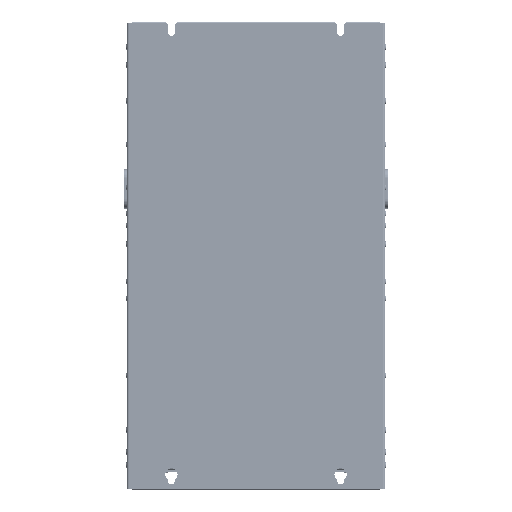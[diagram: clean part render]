
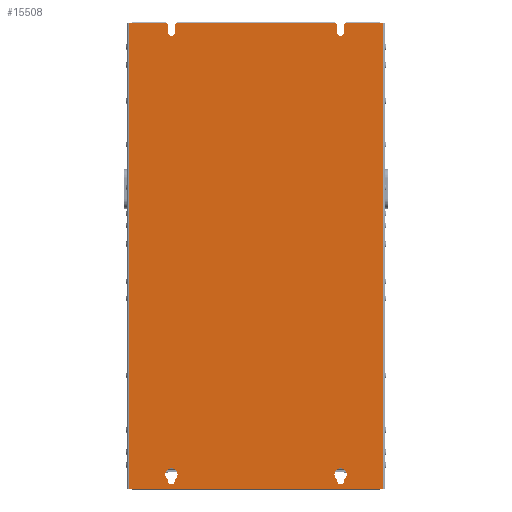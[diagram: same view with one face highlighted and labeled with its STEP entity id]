
A CAD part, left-side view. The second image highlights one B-rep face of the part: STEP entity #15508.
In plain terms, the highlighted planar face has unit normal (-1, 0, 0).
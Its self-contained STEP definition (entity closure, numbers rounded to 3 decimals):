
#22=DIRECTION('',(0.,0.,1.));
#23=VECTOR('',#22,1.523);
#24=CARTESIAN_POINT('',(-90.,-86.5,-405.));
#25=LINE('',#24,#23);
#30=CARTESIAN_POINT('',(-90.,-90.,-405.));
#31=DIRECTION('',(-1.,0.,0.));
#32=DIRECTION('',(0.,1.,0.));
#33=AXIS2_PLACEMENT_3D('',#30,#31,#32);
#38=DIRECTION('',(0.,0.,-1.));
#39=VECTOR('',#38,1.523);
#40=CARTESIAN_POINT('',(-90.,-93.5,-403.477));
#41=LINE('',#40,#39);
#45=CARTESIAN_POINT('',(-90.,-90.,-398.));
#46=DIRECTION('',(-1.,0.,0.));
#47=DIRECTION('',(0.,-0.538,-0.843));
#48=AXIS2_PLACEMENT_3D('',#45,#46,#47);
#53=CARTESIAN_POINT('',(-90.,90.,-405.));
#54=DIRECTION('',(-1.,0.,0.));
#55=DIRECTION('',(0.,1.,0.));
#56=AXIS2_PLACEMENT_3D('',#53,#54,#55);
#61=DIRECTION('',(0.,0.,-1.));
#62=VECTOR('',#61,1.523);
#63=CARTESIAN_POINT('',(-90.,86.5,-403.477));
#64=LINE('',#63,#62);
#68=CARTESIAN_POINT('',(-90.,90.,-398.));
#69=DIRECTION('',(-1.,0.,0.));
#70=DIRECTION('',(0.,-0.538,-0.843));
#71=AXIS2_PLACEMENT_3D('',#68,#69,#70);
#76=DIRECTION('',(0.,0.,1.));
#77=VECTOR('',#76,1.523);
#78=CARTESIAN_POINT('',(-90.,93.5,-405.));
#79=LINE('',#78,#77);
#83=DIRECTION('',(0.,-0.707,-0.707));
#84=VECTOR('',#83,2.121);
#85=CARTESIAN_POINT('',(-90.,95.,82.));
#86=LINE('',#85,#84);
#90=DIRECTION('',(0.,0.,-1.));
#91=VECTOR('',#90,8.5);
#92=CARTESIAN_POINT('',(-90.,93.5,80.5));
#93=LINE('',#92,#91);
#97=CARTESIAN_POINT('',(-90.,90.,72.));
#98=DIRECTION('',(-1.,0.,0.));
#99=DIRECTION('',(0.,1.,0.));
#100=AXIS2_PLACEMENT_3D('',#97,#98,#99);
#105=DIRECTION('',(0.,0.,-1.));
#106=VECTOR('',#105,8.5);
#107=CARTESIAN_POINT('',(-90.,86.5,80.5));
#108=LINE('',#107,#106);
#112=DIRECTION('',(0.,0.707,-0.707));
#113=VECTOR('',#112,2.121);
#114=CARTESIAN_POINT('',(-90.,85.,82.));
#115=LINE('',#114,#113);
#119=DIRECTION('',(0.,-0.707,-0.707));
#120=VECTOR('',#119,2.121);
#121=CARTESIAN_POINT('',(-90.,-85.,82.));
#122=LINE('',#121,#120);
#126=DIRECTION('',(0.,0.,-1.));
#127=VECTOR('',#126,8.5);
#128=CARTESIAN_POINT('',(-90.,-86.5,80.5));
#129=LINE('',#128,#127);
#133=CARTESIAN_POINT('',(-90.,-90.,72.));
#134=DIRECTION('',(-1.,0.,0.));
#135=DIRECTION('',(0.,1.,0.));
#136=AXIS2_PLACEMENT_3D('',#133,#134,#135);
#141=DIRECTION('',(0.,0.,-1.));
#142=VECTOR('',#141,8.5);
#143=CARTESIAN_POINT('',(-90.,-93.5,80.5));
#144=LINE('',#143,#142);
#148=DIRECTION('',(0.,0.707,-0.707));
#149=VECTOR('',#148,2.121);
#150=CARTESIAN_POINT('',(-90.,-95.,82.));
#151=LINE('',#150,#149);
#155=DIRECTION('',(0.,-1.,0.));
#156=VECTOR('',#155,3.);
#157=CARTESIAN_POINT('',(-90.,-131.8,82.));
#158=LINE('',#157,#156);
#162=DIRECTION('',(0.,1.,0.));
#163=VECTOR('',#162,3.);
#164=CARTESIAN_POINT('',(-90.,-134.8,-413.));
#165=LINE('',#164,#163);
#169=DIRECTION('',(0.,1.,0.));
#170=VECTOR('',#169,3.);
#171=CARTESIAN_POINT('',(-90.,131.8,-413.));
#172=LINE('',#171,#170);
#176=DIRECTION('',(0.,-1.,0.));
#177=VECTOR('',#176,3.);
#178=CARTESIAN_POINT('',(-90.,134.8,82.));
#179=LINE('',#178,#177);
#424=DIRECTION('',(0.,1.,0.));
#425=VECTOR('',#424,36.8);
#426=CARTESIAN_POINT('',(-90.,95.,82.));
#427=LINE('',#426,#425);
#461=DIRECTION('',(0.,1.,0.));
#462=VECTOR('',#461,170.);
#463=CARTESIAN_POINT('',(-90.,-85.,82.));
#464=LINE('',#463,#462);
#487=DIRECTION('',(0.,1.,0.));
#488=VECTOR('',#487,36.8);
#489=CARTESIAN_POINT('',(-90.,-131.8,82.));
#490=LINE('',#489,#488);
#786=DIRECTION('',(0.,0.,-1.));
#787=VECTOR('',#786,495.);
#788=CARTESIAN_POINT('',(-90.,-134.8,82.));
#789=LINE('',#788,#787);
#5788=DIRECTION('',(0.,0.,1.));
#5789=VECTOR('',#5788,495.);
#5790=CARTESIAN_POINT('',(-90.,134.8,-413.));
#5791=LINE('',#5790,#5789);
#12514=DIRECTION('',(0.,-1.,0.));
#12515=VECTOR('',#12514,263.6);
#12516=CARTESIAN_POINT('',(-90.,131.8,-413.));
#12517=LINE('',#12516,#12515);
#13125=CARTESIAN_POINT('',(-90.,-134.8,-413.));
#13126=VERTEX_POINT('',#13125);
#13127=CARTESIAN_POINT('',(-90.,-134.8,82.));
#13128=VERTEX_POINT('',#13127);
#13141=CARTESIAN_POINT('',(-90.,134.8,82.));
#13142=VERTEX_POINT('',#13141);
#13143=CARTESIAN_POINT('',(-90.,134.8,-413.));
#13144=VERTEX_POINT('',#13143);
#14505=CARTESIAN_POINT('',(-90.,-86.5,-405.));
#14506=CARTESIAN_POINT('',(-90.,-86.5,-403.477));
#14507=VERTEX_POINT('',#14505);
#14508=VERTEX_POINT('',#14506);
#14509=CARTESIAN_POINT('',(-90.,-93.5,-403.477));
#14510=VERTEX_POINT('',#14509);
#14511=CARTESIAN_POINT('',(-90.,-93.5,-405.));
#14512=VERTEX_POINT('',#14511);
#14513=CARTESIAN_POINT('',(-90.,93.5,-405.));
#14514=CARTESIAN_POINT('',(-90.,86.5,-405.));
#14515=VERTEX_POINT('',#14513);
#14516=VERTEX_POINT('',#14514);
#14517=CARTESIAN_POINT('',(-90.,93.5,-403.477));
#14518=VERTEX_POINT('',#14517);
#14519=CARTESIAN_POINT('',(-90.,86.5,-403.477));
#14520=VERTEX_POINT('',#14519);
#14521=CARTESIAN_POINT('',(-90.,-86.5,72.));
#14522=CARTESIAN_POINT('',(-90.,-93.5,72.));
#14523=VERTEX_POINT('',#14521);
#14524=VERTEX_POINT('',#14522);
#14525=CARTESIAN_POINT('',(-90.,93.5,72.));
#14526=CARTESIAN_POINT('',(-90.,86.5,72.));
#14527=VERTEX_POINT('',#14525);
#14528=VERTEX_POINT('',#14526);
#14569=CARTESIAN_POINT('',(-90.,131.8,-413.));
#14570=CARTESIAN_POINT('',(-90.,-131.8,-413.));
#14571=VERTEX_POINT('',#14569);
#14572=VERTEX_POINT('',#14570);
#15189=CARTESIAN_POINT('',(-90.,-131.8,82.));
#15190=VERTEX_POINT('',#15189);
#15191=CARTESIAN_POINT('',(-90.,131.8,82.));
#15192=VERTEX_POINT('',#15191);
#15241=CARTESIAN_POINT('',(-90.,95.,82.));
#15242=CARTESIAN_POINT('',(-90.,93.5,80.5));
#15243=VERTEX_POINT('',#15241);
#15244=VERTEX_POINT('',#15242);
#15245=CARTESIAN_POINT('',(-90.,85.,82.));
#15246=CARTESIAN_POINT('',(-90.,86.5,80.5));
#15247=VERTEX_POINT('',#15245);
#15248=VERTEX_POINT('',#15246);
#15249=CARTESIAN_POINT('',(-90.,-85.,82.));
#15250=CARTESIAN_POINT('',(-90.,-86.5,80.5));
#15251=VERTEX_POINT('',#15249);
#15252=VERTEX_POINT('',#15250);
#15253=CARTESIAN_POINT('',(-90.,-95.,82.));
#15254=CARTESIAN_POINT('',(-90.,-93.5,80.5));
#15255=VERTEX_POINT('',#15253);
#15256=VERTEX_POINT('',#15254);
#15441=CARTESIAN_POINT('',(-90.,0.,0.));
#15442=DIRECTION('',(1.,0.,0.));
#15443=DIRECTION('',(0.,1.,0.));
#15444=AXIS2_PLACEMENT_3D('',#15441,#15442,#15443);
#15445=PLANE('',#15444);
#15447=ORIENTED_EDGE('',*,*,#15446,.T.);
#15449=ORIENTED_EDGE('',*,*,#15448,.T.);
#15451=ORIENTED_EDGE('',*,*,#15450,.T.);
#15453=ORIENTED_EDGE('',*,*,#15452,.F.);
#15455=ORIENTED_EDGE('',*,*,#15454,.F.);
#15457=ORIENTED_EDGE('',*,*,#15456,.F.);
#15459=ORIENTED_EDGE('',*,*,#15458,.T.);
#15461=ORIENTED_EDGE('',*,*,#15460,.T.);
#15463=ORIENTED_EDGE('',*,*,#15462,.T.);
#15465=ORIENTED_EDGE('',*,*,#15464,.F.);
#15467=ORIENTED_EDGE('',*,*,#15466,.F.);
#15469=ORIENTED_EDGE('',*,*,#15468,.F.);
#15471=ORIENTED_EDGE('',*,*,#15470,.T.);
#15473=ORIENTED_EDGE('',*,*,#15472,.T.);
#15475=ORIENTED_EDGE('',*,*,#15474,.T.);
#15477=ORIENTED_EDGE('',*,*,#15476,.F.);
#15479=ORIENTED_EDGE('',*,*,#15478,.T.);
#15481=ORIENTED_EDGE('',*,*,#15480,.T.);
#15483=ORIENTED_EDGE('',*,*,#15482,.T.);
#15485=ORIENTED_EDGE('',*,*,#15484,.F.);
#15486=EDGE_LOOP('',(#15447,#15449,#15451,#15453,#15455,#15457,#15459,#15461,
#15463,#15465,#15467,#15469,#15471,#15473,#15475,#15477,#15479,#15481,#15483,
#15485));
#15487=FACE_OUTER_BOUND('',#15486,.F.);
#15489=ORIENTED_EDGE('',*,*,#15488,.T.);
#15491=ORIENTED_EDGE('',*,*,#15490,.F.);
#15493=ORIENTED_EDGE('',*,*,#15492,.T.);
#15495=ORIENTED_EDGE('',*,*,#15494,.F.);
#15496=EDGE_LOOP('',(#15489,#15491,#15493,#15495));
#15497=FACE_BOUND('',#15496,.F.);
#15499=ORIENTED_EDGE('',*,*,#15498,.F.);
#15501=ORIENTED_EDGE('',*,*,#15500,.T.);
#15503=ORIENTED_EDGE('',*,*,#15502,.F.);
#15505=ORIENTED_EDGE('',*,*,#15504,.T.);
#15506=EDGE_LOOP('',(#15499,#15501,#15503,#15505));
#15507=FACE_BOUND('',#15506,.F.);
#15508=ADVANCED_FACE('',(#15487,#15497,#15507),#15445,.F.);
#34=CIRCLE('',#33,3.5);
#49=CIRCLE('',#48,6.5);
#57=CIRCLE('',#56,3.5);
#72=CIRCLE('',#71,6.5);
#101=CIRCLE('',#100,3.5);
#137=CIRCLE('',#136,3.5);
#15446=EDGE_CURVE('',#15243,#15244,#86,.T.);
#15448=EDGE_CURVE('',#15244,#14527,#93,.T.);
#15450=EDGE_CURVE('',#14527,#14528,#101,.T.);
#15452=EDGE_CURVE('',#15248,#14528,#108,.T.);
#15454=EDGE_CURVE('',#15247,#15248,#115,.T.);
#15456=EDGE_CURVE('',#15251,#15247,#464,.T.);
#15458=EDGE_CURVE('',#15251,#15252,#122,.T.);
#15460=EDGE_CURVE('',#15252,#14523,#129,.T.);
#15462=EDGE_CURVE('',#14523,#14524,#137,.T.);
#15464=EDGE_CURVE('',#15256,#14524,#144,.T.);
#15466=EDGE_CURVE('',#15255,#15256,#151,.T.);
#15468=EDGE_CURVE('',#15190,#15255,#490,.T.);
#15470=EDGE_CURVE('',#15190,#13128,#158,.T.);
#15472=EDGE_CURVE('',#13128,#13126,#789,.T.);
#15474=EDGE_CURVE('',#13126,#14572,#165,.T.);
#15476=EDGE_CURVE('',#14571,#14572,#12517,.T.);
#15478=EDGE_CURVE('',#14571,#13144,#172,.T.);
#15480=EDGE_CURVE('',#13144,#13142,#5791,.T.);
#15482=EDGE_CURVE('',#13142,#15192,#179,.T.);
#15484=EDGE_CURVE('',#15243,#15192,#427,.T.);
#15488=EDGE_CURVE('',#14515,#14516,#57,.T.);
#15490=EDGE_CURVE('',#14520,#14516,#64,.T.);
#15492=EDGE_CURVE('',#14520,#14518,#72,.T.);
#15494=EDGE_CURVE('',#14515,#14518,#79,.T.);
#15498=EDGE_CURVE('',#14507,#14508,#25,.T.);
#15500=EDGE_CURVE('',#14507,#14512,#34,.T.);
#15502=EDGE_CURVE('',#14510,#14512,#41,.T.);
#15504=EDGE_CURVE('',#14510,#14508,#49,.T.);
